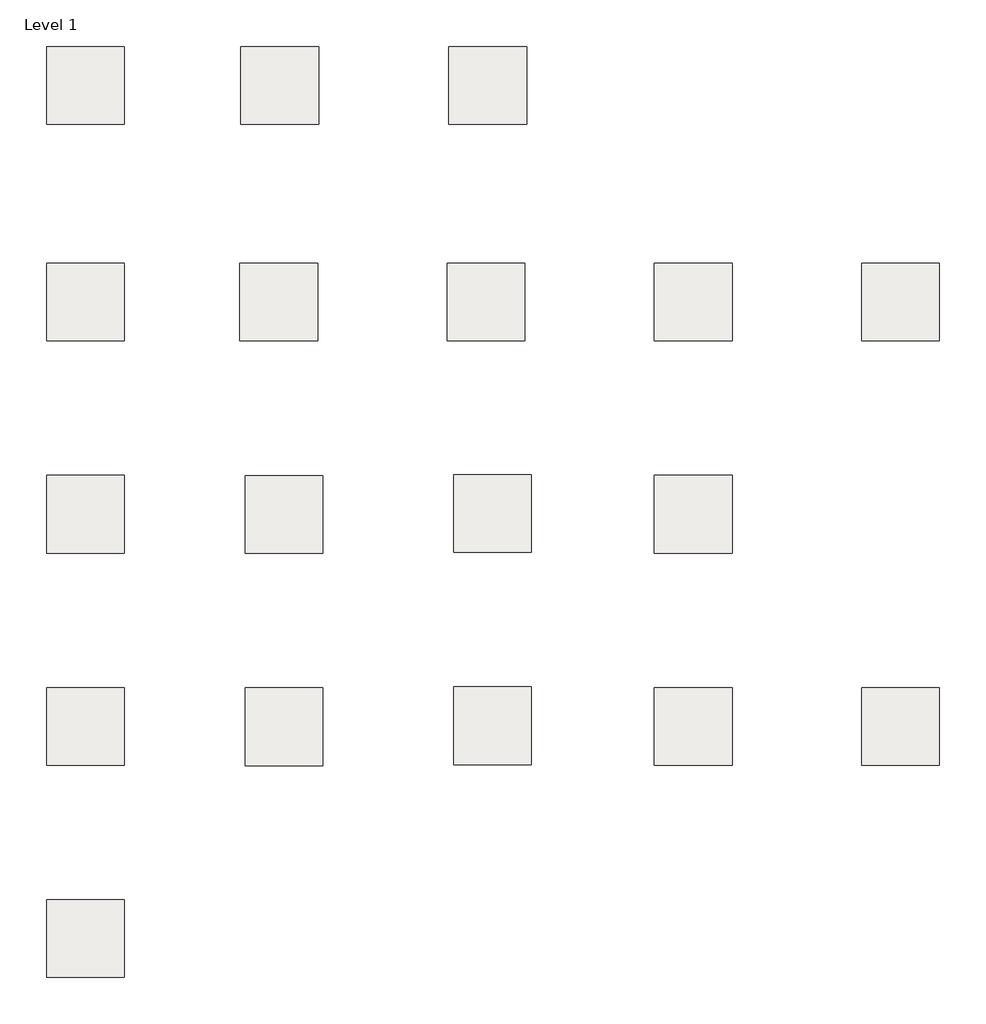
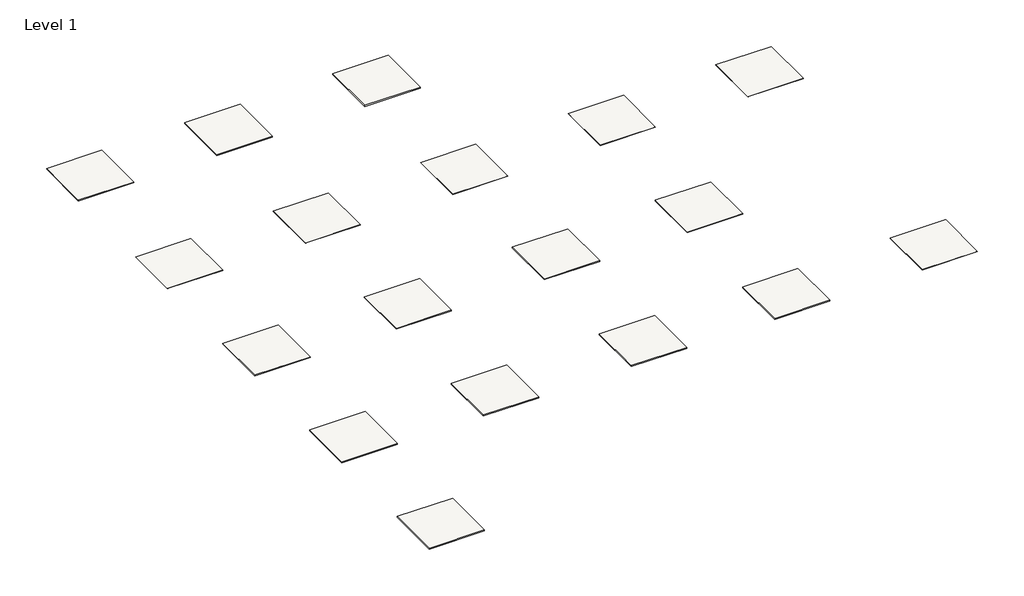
# One storey: 18 slabs.
"""IFC4 building model written with IfcOpenShell, lengths in millimetres."""

from ifc_helpers import new_model, si_unit, frame, origin, place, context, project, spatial, polyline, outline, extrude, element, save

model = new_model("IFC4")

# Units and contexts
model_context = context("Model", 3, world=origin())
ifc_project = project(units=[si_unit("LENGTHUNIT", "METRE", prefix="MILLI")], contexts=[model_context])

# Site, building, storey
site = spatial("IfcSite", under=ifc_project)
building = spatial("IfcBuilding", under=site)
storey = spatial("IfcBuildingStorey", under=building, Name="Level 1", Elevation=0.0)

# Slabs
placement = place(None, origin())
element("IfcSlab", 1, ObjectType="Silencio - Sound Absorption Board 24mm 600x1800", at=placement, inside=storey, context=model_context, shape_type="SweptSolid", body=[
    extrude(outline(polyline([(-4769.4156281, -754.5180449), (-6569.4156281, -754.5180449), (-6569.4156281, 1045.4819551), (-4769.4156281, 1045.4819551), (-4769.4156281, -754.5180449)])), frame((0.0, 0.0, -24.0), z_axis=(0.0, 0.0, 1.0), x_axis=(1.0, 0.0, 0.0)), (0.0, 0.0, 1.0), 24.0),
])
element("IfcSlab", 2, ObjectType="Silencio - Sound Absorption Board 36mm 600x1800", at=placement, inside=storey, context=model_context, shape_type="SweptSolid", body=[
    extrude(outline(polyline([(-269.4156281, -754.5180449), (-2069.4156281, -754.5180449), (-2069.4156281, 1045.4819551), (-269.4156281, 1045.4819551), (-269.4156281, -754.5180449)])), frame((0.0, 0.0, -36.0), z_axis=(0.0, 0.0, 1.0), x_axis=(1.0, 0.0, 0.0)), (0.0, 0.0, 1.0), 36.0),
])
element("IfcSlab", 3, ObjectType="Silencio - Sound Absorption Board 36mm 600x1800 Solid", at=placement, inside=storey, context=model_context, shape_type="SweptSolid", body=[
    extrude(outline(polyline([(4549.3023545, -754.5180449), (2749.3023545, -754.5180449), (2749.3023545, 1045.4819551), (4549.3023545, 1045.4819551), (4549.3023545, -754.5180449)])), frame((0.0, 0.0, -36.0), z_axis=(0.0, 0.0, 1.0), x_axis=(1.0, 0.0, 0.0)), (0.0, 0.0, 1.0), 36.0),
])
element("IfcSlab", 4, ObjectType="Silencio - Underlay 4mm 590x790", at=placement, inside=storey, context=model_context, shape_type="SweptSolid", body=[
    extrude(outline(polyline([(-4769.4156281, -5768.8614156), (-6569.4156281, -5768.8614156), (-6569.4156281, -3968.8614156), (-4769.4156281, -3968.8614156), (-4769.4156281, -5768.8614156)])), frame((0.0, 0.0, -4.0), z_axis=(0.0, 0.0, 1.0), x_axis=(1.0, 0.0, 0.0)), (0.0, 0.0, 1.0), 4.0),
])
element("IfcSlab", 5, ObjectType="Silencio - Underlay 6mm 590x790", at=placement, inside=storey, context=model_context, shape_type="SweptSolid", body=[
    extrude(outline(polyline([(-293.8878964, -5768.8614156), (-2093.8878964, -5768.8614156), (-2093.8878964, -3968.8614156), (-293.8878964, -3968.8614156), (-293.8878964, -5768.8614156)])), frame((0.0, 0.0, -6.0), z_axis=(0.0, 0.0, 1.0), x_axis=(1.0, 0.0, 0.0)), (0.0, 0.0, 1.0), 6.0),
])
element("IfcSlab", 6, ObjectType="Silencio - Underlay 6mm 600x1800", at=placement, inside=storey, context=model_context, shape_type="SweptSolid", body=[
    extrude(outline(polyline([(4506.1121036, -5768.8614156), (2706.1121036, -5768.8614156), (2706.1121036, -3968.8614156), (4506.1121036, -3968.8614156), (4506.1121036, -5768.8614156)])), frame((0.0, 0.0, -6.0), z_axis=(0.0, 0.0, 1.0), x_axis=(1.0, 0.0, 0.0)), (0.0, 0.0, 1.0), 6.0),
])
element("IfcSlab", 7, ObjectType="Silencio - Underlay 8mm 590x790", at=placement, inside=storey, context=model_context, shape_type="SweptSolid", body=[
    extrude(outline(polyline([(9306.1121036, -5768.8614156), (7506.1121036, -5768.8614156), (7506.1121036, -3968.8614156), (9306.1121036, -3968.8614156), (9306.1121036, -5768.8614156)])), frame((0.0, 0.0, -8.0), z_axis=(0.0, 0.0, 1.0), x_axis=(1.0, 0.0, 0.0)), (0.0, 0.0, 1.0), 8.0),
])
element("IfcSlab", 8, ObjectType="Silencio - Underlay 12mm 600x1800", at=placement, inside=storey, context=model_context, shape_type="SweptSolid", body=[
    extrude(outline(polyline([(14106.1121036, -5768.8614156), (12306.1121036, -5768.8614156), (12306.1121036, -3968.8614156), (14106.1121036, -3968.8614156), (14106.1121036, -5768.8614156)])), frame((0.0, 0.0, -12.0), z_axis=(0.0, 0.0, 1.0), x_axis=(1.0, 0.0, 0.0)), (0.0, 0.0, 1.0), 12.0),
])
element("IfcSlab", 9, ObjectType="Silencio - Thermo 24mm 600x1800 Standard", at=placement, inside=storey, context=model_context, shape_type="SweptSolid", body=[
    extrude(outline(polyline([(-4769.4156281, -10683.2047863), (-6569.4156281, -10683.2047863), (-6569.4156281, -8883.2047863), (-4769.4156281, -8883.2047863), (-4769.4156281, -10683.2047863)])), frame((0.0, 0.0, -24.0), z_axis=(0.0, 0.0, 1.0), x_axis=(1.0, 0.0, 0.0)), (0.0, 0.0, 1.0), 24.0),
])
element("IfcSlab", 10, ObjectType="Silencio - Thermo 24mm 300x1600 Vende 16-17/200", at=placement, inside=storey, context=model_context, shape_type="SweptSolid", body=[
    extrude(outline(polyline([(-173.1222875, -10692.6204101), (-1973.1222875, -10692.6204101), (-1973.1222875, -8892.6204101), (-173.1222875, -8892.6204101), (-173.1222875, -10692.6204101)])), frame((0.0, 0.0, -24.0), z_axis=(0.0, 0.0, 1.0), x_axis=(1.0, 0.0, 0.0)), (0.0, 0.0, 1.0), 24.0),
])
element("IfcSlab", 11, ObjectType="Silencio - Thermo 24mm 300x1800 Vende 17/300", at=placement, inside=storey, context=model_context, shape_type="SweptSolid", body=[
    extrude(outline(polyline([(4655.5380525, -10670.7526239), (2855.5380525, -10670.7526239), (2855.5380525, -8870.7526239), (4655.5380525, -8870.7526239), (4655.5380525, -10670.7526239)])), frame((0.0, 0.0, -24.0), z_axis=(0.0, 0.0, 1.0), x_axis=(1.0, 0.0, 0.0)), (0.0, 0.0, 1.0), 24.0),
])
element("IfcSlab", 12, ObjectType="Silencio - Thermo 24mm 600x1800 Tilf.el.17/100", at=placement, inside=storey, context=model_context, shape_type="SweptSolid", body=[
    extrude(outline(polyline([(9306.1121036, -10683.2047863), (7506.1121036, -10683.2047863), (7506.1121036, -8883.2047863), (9306.1121036, -8883.2047863), (9306.1121036, -10683.2047863)])), frame((0.0, 0.0, -24.0), z_axis=(0.0, 0.0, 1.0), x_axis=(1.0, 0.0, 0.0)), (0.0, 0.0, 1.0), 24.0),
])
element("IfcSlab", 13, ObjectType="Silencio - Thermo 36mm 600x1800 Standard", at=placement, inside=storey, context=model_context, shape_type="SweptSolid", body=[
    extrude(outline(polyline([(-4769.4156281, -15597.548157), (-6569.4156281, -15597.548157), (-6569.4156281, -13797.548157), (-4769.4156281, -13797.548157), (-4769.4156281, -15597.548157)])), frame((0.0, 0.0, -36.0), z_axis=(0.0, 0.0, 1.0), x_axis=(1.0, 0.0, 0.0)), (0.0, 0.0, 1.0), 36.0),
])
element("IfcSlab", 14, ObjectType="Silencio - Thermo 36mm 300x1600 Vende 16-17/200", at=placement, inside=storey, context=model_context, shape_type="SweptSolid", body=[
    extrude(outline(polyline([(-173.1222875, -15606.9637808), (-1973.1222875, -15606.9637808), (-1973.1222875, -13806.9637808), (-173.1222875, -13806.9637808), (-173.1222875, -15606.9637808)])), frame((0.0, 0.0, -36.0), z_axis=(0.0, 0.0, 1.0), x_axis=(1.0, 0.0, 0.0)), (0.0, 0.0, 1.0), 36.0),
])
element("IfcSlab", 15, ObjectType="Silencio - Thermo 36mm 300x1800 Vende 17/300 - 20/300", at=placement, inside=storey, context=model_context, shape_type="SweptSolid", body=[
    extrude(outline(polyline([(4655.5380525, -15585.0959946), (2855.5380525, -15585.0959946), (2855.5380525, -13785.0959946), (4655.5380525, -13785.0959946), (4655.5380525, -15585.0959946)])), frame((0.0, 0.0, -36.0), z_axis=(0.0, 0.0, 1.0), x_axis=(1.0, 0.0, 0.0)), (0.0, 0.0, 1.0), 36.0),
])
element("IfcSlab", 16, ObjectType="Silencio - Thermo 36mm 600x1800 Tilf.el.16-17/100 - 20/100", at=placement, inside=storey, context=model_context, shape_type="SweptSolid", body=[
    extrude(outline(polyline([(9306.1121036, -15597.548157), (7506.1121036, -15597.548157), (7506.1121036, -13797.548157), (9306.1121036, -13797.548157), (9306.1121036, -15597.548157)])), frame((0.0, 0.0, -36.0), z_axis=(0.0, 0.0, 1.0), x_axis=(1.0, 0.0, 0.0)), (0.0, 0.0, 1.0), 36.0),
])
element("IfcSlab", 17, ObjectType="Silencio - Underlay 12mm 600x1800", at=placement, inside=storey, context=model_context, shape_type="SweptSolid", body=[
    extrude(outline(polyline([(14106.1121036, -15597.548157), (12306.1121036, -15597.548157), (12306.1121036, -13797.548157), (14106.1121036, -13797.548157), (14106.1121036, -15597.548157)])), frame((0.0, 0.0, -12.0), z_axis=(0.0, 0.0, 1.0), x_axis=(1.0, 0.0, 0.0)), (0.0, 0.0, 1.0), 12.0),
])
element("IfcSlab", 18, ObjectType="Silencio - Thermo 36mm 600x1800 Solid", at=placement, inside=storey, context=model_context, shape_type="SweptSolid", body=[
    extrude(outline(polyline([(-4769.4156281, -20511.8915277), (-6569.4156281, -20511.8915277), (-6569.4156281, -18711.8915277), (-4769.4156281, -18711.8915277), (-4769.4156281, -20511.8915277)])), frame((0.0, 0.0, -36.0), z_axis=(0.0, 0.0, 1.0), x_axis=(1.0, 0.0, 0.0)), (0.0, 0.0, 1.0), 36.0),
])

save(model, "model.ifc")
